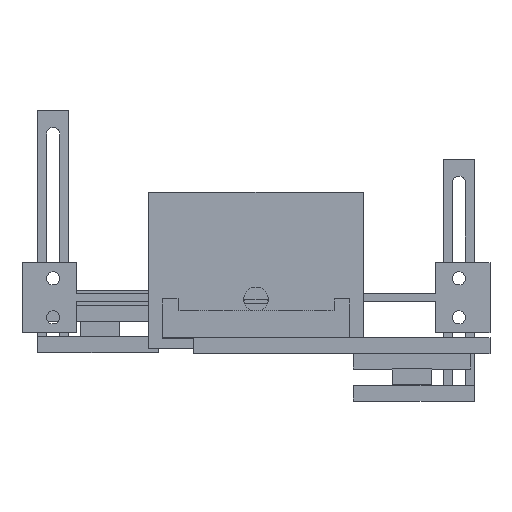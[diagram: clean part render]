
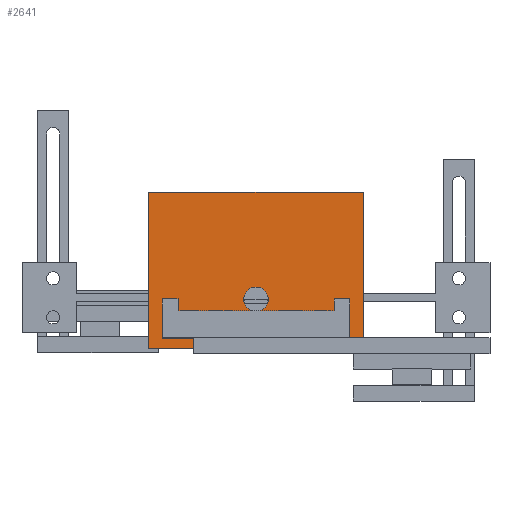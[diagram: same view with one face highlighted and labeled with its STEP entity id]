
A CAD part, top view. The second image highlights one B-rep face of the part: STEP entity #2641.
In plain terms, the highlighted planar face has unit normal (0, 0, 1).
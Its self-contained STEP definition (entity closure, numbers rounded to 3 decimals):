
#2079 = EDGE_CURVE('',#2080,#2082,#2084,.T.);
#2080 = VERTEX_POINT('',#2081);
#2081 = CARTESIAN_POINT('',(-27.5,27.5,66.));
#2082 = VERTEX_POINT('',#2083);
#2083 = CARTESIAN_POINT('',(27.5,27.5,66.));
#2084 = SURFACE_CURVE('',#2085,(#2089,#2101),.PCURVE_S1.);
#2085 = LINE('',#2086,#2087);
#2086 = CARTESIAN_POINT('',(-27.5,27.5,66.));
#2087 = VECTOR('',#2088,1.);
#2088 = DIRECTION('',(1.,0.,0.));
#2089 = PCURVE('',#2090,#2095);
#2090 = PLANE('',#2091);
#2091 = AXIS2_PLACEMENT_3D('',#2092,#2093,#2094);
#2092 = CARTESIAN_POINT('',(-27.5,27.5,66.));
#2093 = DIRECTION('',(0.,1.,0.));
#2094 = DIRECTION('',(1.,0.,0.));
#2095 = DEFINITIONAL_REPRESENTATION('',(#2096),#2100);
#2096 = LINE('',#2097,#2098);
#2097 = CARTESIAN_POINT('',(0.,0.));
#2098 = VECTOR('',#2099,1.);
#2099 = DIRECTION('',(1.,0.));
#2100 = ( GEOMETRIC_REPRESENTATION_CONTEXT(2) 
PARAMETRIC_REPRESENTATION_CONTEXT() REPRESENTATION_CONTEXT('2D SPACE',''
  ) );
#2101 = PCURVE('',#2102,#2107);
#2102 = PLANE('',#2103);
#2103 = AXIS2_PLACEMENT_3D('',#2104,#2105,#2106);
#2104 = CARTESIAN_POINT('',(0.,0.,66.));
#2105 = DIRECTION('',(0.,0.,-1.));
#2106 = DIRECTION('',(-1.,0.,0.));
#2107 = DEFINITIONAL_REPRESENTATION('',(#2108),#2112);
#2108 = LINE('',#2109,#2110);
#2109 = CARTESIAN_POINT('',(27.5,27.5));
#2110 = VECTOR('',#2111,1.);
#2111 = DIRECTION('',(-1.,0.));
#2112 = ( GEOMETRIC_REPRESENTATION_CONTEXT(2) 
PARAMETRIC_REPRESENTATION_CONTEXT() REPRESENTATION_CONTEXT('2D SPACE',''
  ) );
#2130 = PLANE('',#2131);
#2131 = AXIS2_PLACEMENT_3D('',#2132,#2133,#2134);
#2132 = CARTESIAN_POINT('',(27.5,12.5,66.));
#2133 = DIRECTION('',(1.,0.,0.));
#2134 = DIRECTION('',(0.,-1.,-0.));
#2184 = PLANE('',#2185);
#2185 = AXIS2_PLACEMENT_3D('',#2186,#2187,#2188);
#2186 = CARTESIAN_POINT('',(-27.5,-12.5,66.));
#2187 = DIRECTION('',(-1.,0.,0.));
#2188 = DIRECTION('',(0.,1.,0.));
#2354 = VERTEX_POINT('',#2355);
#2355 = CARTESIAN_POINT('',(3.15,0.,66.));
#2362 = CYLINDRICAL_SURFACE('',#2363,3.15);
#2363 = AXIS2_PLACEMENT_3D('',#2364,#2365,#2366);
#2364 = CARTESIAN_POINT('',(0.,0.,66.));
#2365 = DIRECTION('',(0.,0.,-1.));
#2366 = DIRECTION('',(-1.,0.,0.));
#2381 = EDGE_CURVE('',#2354,#2354,#2382,.T.);
#2382 = SURFACE_CURVE('',#2383,(#2388,#2395),.PCURVE_S1.);
#2383 = CIRCLE('',#2384,3.15);
#2384 = AXIS2_PLACEMENT_3D('',#2385,#2386,#2387);
#2385 = CARTESIAN_POINT('',(0.,0.,66.));
#2386 = DIRECTION('',(0.,-0.,1.));
#2387 = DIRECTION('',(-1.,0.,0.));
#2388 = PCURVE('',#2362,#2389);
#2389 = DEFINITIONAL_REPRESENTATION('',(#2390),#2394);
#2390 = LINE('',#2391,#2392);
#2391 = CARTESIAN_POINT('',(6.283,0.));
#2392 = VECTOR('',#2393,1.);
#2393 = DIRECTION('',(-1.,0.));
#2394 = ( GEOMETRIC_REPRESENTATION_CONTEXT(2) 
PARAMETRIC_REPRESENTATION_CONTEXT() REPRESENTATION_CONTEXT('2D SPACE',''
  ) );
#2395 = PCURVE('',#2102,#2396);
#2396 = DEFINITIONAL_REPRESENTATION('',(#2397),#2405);
#2397 = ( BOUNDED_CURVE() B_SPLINE_CURVE(2,(#2398,#2399,#2400,#2401,
#2402,#2403,#2404),.UNSPECIFIED.,.T.,.F.) B_SPLINE_CURVE_WITH_KNOTS((1,2
    ,2,2,2,1),(-2.094,0.,2.094,4.189,
6.283,8.378),.UNSPECIFIED.) CURVE() 
GEOMETRIC_REPRESENTATION_ITEM() RATIONAL_B_SPLINE_CURVE((1.,0.5,1.,0.5,
1.,0.5,1.)) REPRESENTATION_ITEM('') );
#2398 = CARTESIAN_POINT('',(3.15,0.));
#2399 = CARTESIAN_POINT('',(3.15,-5.456));
#2400 = CARTESIAN_POINT('',(-1.575,-2.728));
#2401 = CARTESIAN_POINT('',(-6.3,0.));
#2402 = CARTESIAN_POINT('',(-1.575,2.728));
#2403 = CARTESIAN_POINT('',(3.15,5.456));
#2404 = CARTESIAN_POINT('',(3.15,0.));
#2405 = ( GEOMETRIC_REPRESENTATION_CONTEXT(2) 
PARAMETRIC_REPRESENTATION_CONTEXT() REPRESENTATION_CONTEXT('2D SPACE',''
  ) );
#2437 = EDGE_CURVE('',#2438,#2080,#2440,.T.);
#2438 = VERTEX_POINT('',#2439);
#2439 = CARTESIAN_POINT('',(-27.5,-12.5,66.));
#2440 = SURFACE_CURVE('',#2441,(#2445,#2452),.PCURVE_S1.);
#2441 = LINE('',#2442,#2443);
#2442 = CARTESIAN_POINT('',(-27.5,-12.5,66.));
#2443 = VECTOR('',#2444,1.);
#2444 = DIRECTION('',(0.,1.,0.));
#2445 = PCURVE('',#2184,#2446);
#2446 = DEFINITIONAL_REPRESENTATION('',(#2447),#2451);
#2447 = LINE('',#2448,#2449);
#2448 = CARTESIAN_POINT('',(0.,0.));
#2449 = VECTOR('',#2450,1.);
#2450 = DIRECTION('',(1.,0.));
#2451 = ( GEOMETRIC_REPRESENTATION_CONTEXT(2) 
PARAMETRIC_REPRESENTATION_CONTEXT() REPRESENTATION_CONTEXT('2D SPACE',''
  ) );
#2452 = PCURVE('',#2102,#2453);
#2453 = DEFINITIONAL_REPRESENTATION('',(#2454),#2458);
#2454 = LINE('',#2455,#2456);
#2455 = CARTESIAN_POINT('',(27.5,-12.5));
#2456 = VECTOR('',#2457,1.);
#2457 = DIRECTION('',(0.,1.));
#2458 = ( GEOMETRIC_REPRESENTATION_CONTEXT(2) 
PARAMETRIC_REPRESENTATION_CONTEXT() REPRESENTATION_CONTEXT('2D SPACE',''
  ) );
#2500 = PLANE('',#2501);
#2501 = AXIS2_PLACEMENT_3D('',#2502,#2503,#2504);
#2502 = CARTESIAN_POINT('',(27.5,-12.5,66.));
#2503 = DIRECTION('',(0.,-1.,-0.));
#2504 = DIRECTION('',(-1.,0.,0.));
#2515 = EDGE_CURVE('',#2516,#2438,#2518,.T.);
#2516 = VERTEX_POINT('',#2517);
#2517 = CARTESIAN_POINT('',(27.5,-12.5,66.));
#2518 = SURFACE_CURVE('',#2519,(#2523,#2530),.PCURVE_S1.);
#2519 = LINE('',#2520,#2521);
#2520 = CARTESIAN_POINT('',(27.5,-12.5,66.));
#2521 = VECTOR('',#2522,1.);
#2522 = DIRECTION('',(-1.,0.,0.));
#2523 = PCURVE('',#2500,#2524);
#2524 = DEFINITIONAL_REPRESENTATION('',(#2525),#2529);
#2525 = LINE('',#2526,#2527);
#2526 = CARTESIAN_POINT('',(0.,0.));
#2527 = VECTOR('',#2528,1.);
#2528 = DIRECTION('',(1.,0.));
#2529 = ( GEOMETRIC_REPRESENTATION_CONTEXT(2) 
PARAMETRIC_REPRESENTATION_CONTEXT() REPRESENTATION_CONTEXT('2D SPACE',''
  ) );
#2530 = PCURVE('',#2102,#2531);
#2531 = DEFINITIONAL_REPRESENTATION('',(#2532),#2536);
#2532 = LINE('',#2533,#2534);
#2533 = CARTESIAN_POINT('',(-27.5,-12.5));
#2534 = VECTOR('',#2535,1.);
#2535 = DIRECTION('',(1.,0.));
#2536 = ( GEOMETRIC_REPRESENTATION_CONTEXT(2) 
PARAMETRIC_REPRESENTATION_CONTEXT() REPRESENTATION_CONTEXT('2D SPACE',''
  ) );
#2586 = EDGE_CURVE('',#2082,#2516,#2587,.T.);
#2587 = SURFACE_CURVE('',#2588,(#2592,#2599),.PCURVE_S1.);
#2588 = LINE('',#2589,#2590);
#2589 = CARTESIAN_POINT('',(27.5,12.5,66.));
#2590 = VECTOR('',#2591,1.);
#2591 = DIRECTION('',(0.,-1.,-0.));
#2592 = PCURVE('',#2130,#2593);
#2593 = DEFINITIONAL_REPRESENTATION('',(#2594),#2598);
#2594 = LINE('',#2595,#2596);
#2595 = CARTESIAN_POINT('',(0.,0.));
#2596 = VECTOR('',#2597,1.);
#2597 = DIRECTION('',(1.,0.));
#2598 = ( GEOMETRIC_REPRESENTATION_CONTEXT(2) 
PARAMETRIC_REPRESENTATION_CONTEXT() REPRESENTATION_CONTEXT('2D SPACE',''
  ) );
#2599 = PCURVE('',#2102,#2600);
#2600 = DEFINITIONAL_REPRESENTATION('',(#2601),#2605);
#2601 = LINE('',#2602,#2603);
#2602 = CARTESIAN_POINT('',(-27.5,12.5));
#2603 = VECTOR('',#2604,1.);
#2604 = DIRECTION('',(-0.,-1.));
#2605 = ( GEOMETRIC_REPRESENTATION_CONTEXT(2) 
PARAMETRIC_REPRESENTATION_CONTEXT() REPRESENTATION_CONTEXT('2D SPACE',''
  ) );
#2641 = ADVANCED_FACE('',(#2642,#2648),#2102,.F.);
#2642 = FACE_BOUND('',#2643,.T.);
#2643 = EDGE_LOOP('',(#2644,#2645,#2646,#2647));
#2644 = ORIENTED_EDGE('',*,*,#2586,.F.);
#2645 = ORIENTED_EDGE('',*,*,#2079,.F.);
#2646 = ORIENTED_EDGE('',*,*,#2437,.F.);
#2647 = ORIENTED_EDGE('',*,*,#2515,.F.);
#2648 = FACE_BOUND('',#2649,.T.);
#2649 = EDGE_LOOP('',(#2650));
#2650 = ORIENTED_EDGE('',*,*,#2381,.F.);
